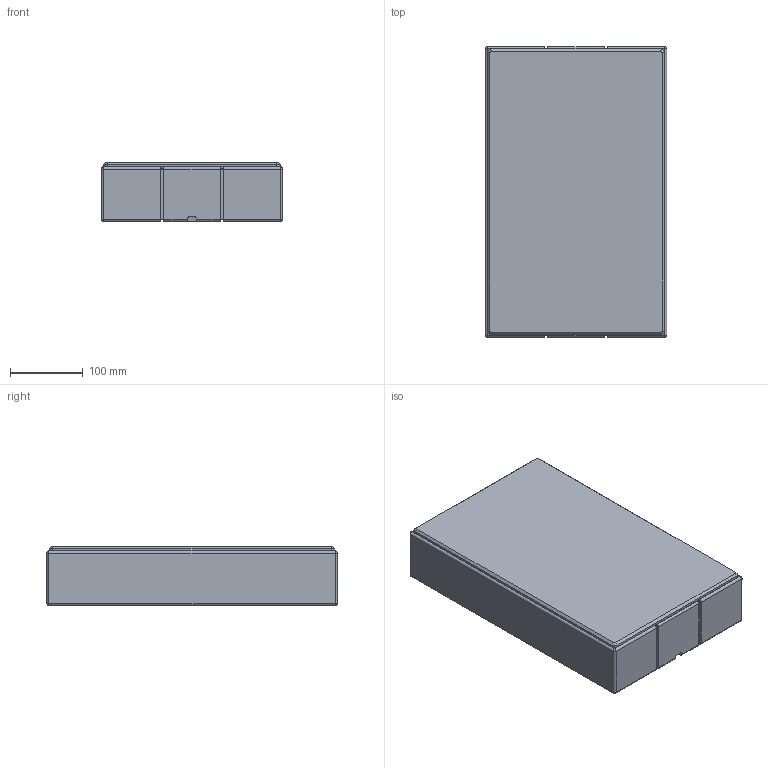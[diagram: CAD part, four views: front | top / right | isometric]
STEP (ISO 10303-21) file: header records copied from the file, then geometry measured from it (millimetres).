
FILE_DESCRIPTION(/* description */ (''),/* implementation_level */ '2;1');
FILE_NAME(/* name */ 'The5 Passive ON WALL Speaker_Grille_separate files.step',/* time_stamp */ '2024-01-09T14:54:30+01:00',/* author */ (''),/* organization */ (''),/* preprocessor_version */ 'ST-DEVELOPER v20',/* originating_system */ 'Autodesk Translation Framework v12.14.0.127',/* authorisation */ '');
FILE_SCHEMA (('AUTOMOTIVE_DESIGN { 1 0 10303 214 3 1 1 }'));
Products named in the file (3): (Nicht gespeichert); The5 Passive On Wall; The5 Passive On Wall GRILLE
Assembly tree (2 placements, depth 2):
  (Nicht gespeichert)
    The5 Passive On Wall
    The5 Passive On Wall GRILLE
Bounding box: 250 x 400 x 81 mm (x, y, z)
Volume: 6571609.3 mm3; surface area: 747705.9 mm2
Topology: 2 solids, 34 shells, 2964 faces, 7858 edges, 5095 vertices
Faces by surface type: plane 1573, cylinder 541, bspline 449, cone 267, torus 112, sphere 22
Full cylindrical faces by diameter (mm): 2.5 x52, 3.6 x24, 4 x12, 5 x4, 5.4 x4, 5.8 x2, 6 x8, 6.5 x20, 7.3 x4, 8 x4, 9 x4, 9.9 x2, 10.2 x4, 10.3 x4, 11.5 x2, 34 x4, 36.2 x1, 37 x1, 115.05 x1, 117 x1, 120 x1, 124 x1, 125.5 x1
Entity records: 131749 total; most frequent: CARTESIAN_POINT 59317, ORIENTED_EDGE 15630, DIRECTION 14163, EDGE_CURVE 7815, VERTEX_POINT 5095, AXIS2_PLACEMENT_3D 4785, LINE 4593, VECTOR 4593
